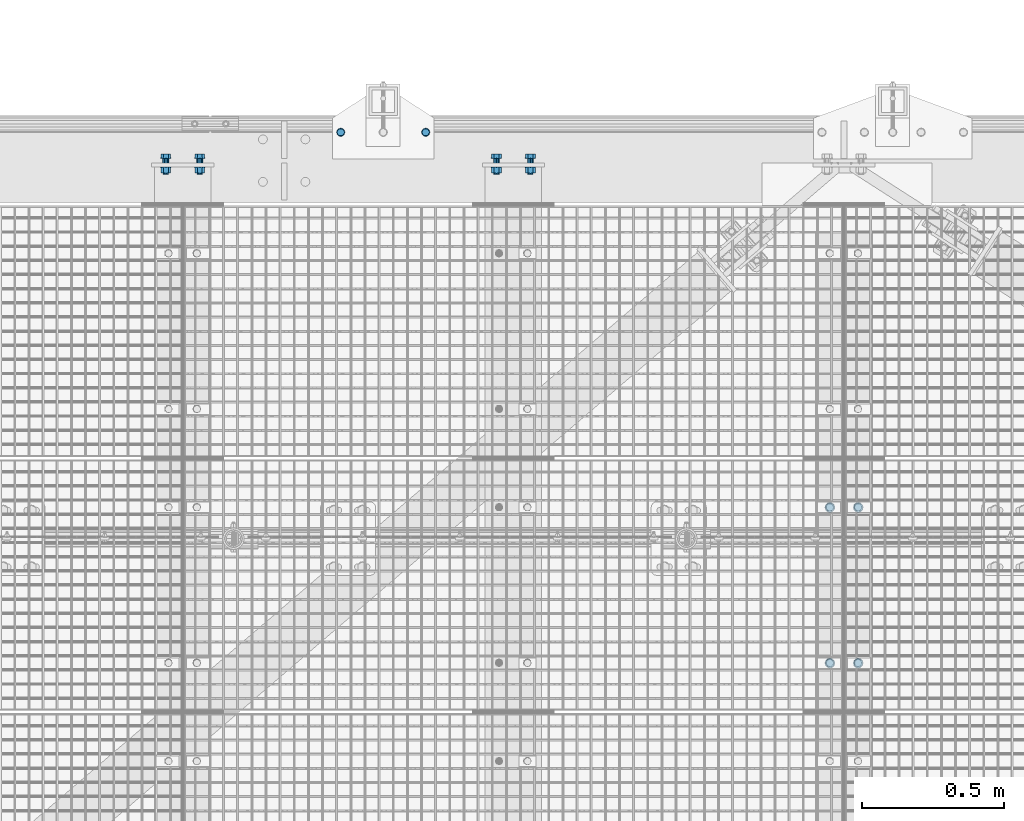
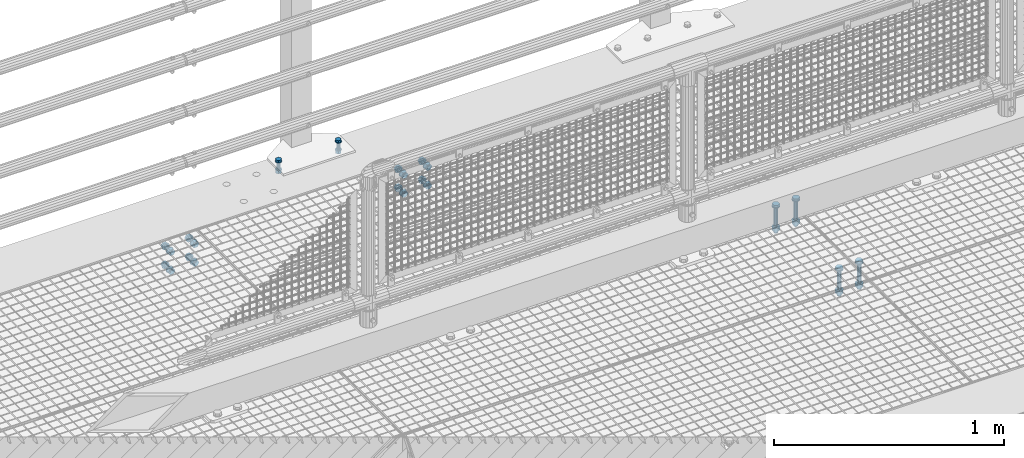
# One storey, part 40 of 1530: 5 mechanical fasteners.
"""IFC2X3 building model written with IfcOpenShell, lengths in millimetres."""

from ifc_helpers import new_model, si_unit, frame, origin_with_axes, place, context, subcontext, project, spatial, faceted_brep, source, transform, mapped, material, type_object, element, save


model = new_model("IFC2X3")

# Units and contexts
model_context = context("Model", 3, precision=1e-05, world=origin_with_axes())
body_context = subcontext(model_context, "Body", "Model", "MODEL_VIEW")
ifc_project = project(units=[si_unit("LENGTHUNIT", "METRE", prefix="MILLI"), si_unit("AREAUNIT", "SQUARE_METRE"), si_unit("VOLUMEUNIT", "CUBIC_METRE"), si_unit("MASSUNIT", "GRAM", prefix="KILO"), si_unit("TIMEUNIT", "SECOND"), si_unit("PLANEANGLEUNIT", "RADIAN"), si_unit("SOLIDANGLEUNIT", "STERADIAN"), si_unit("THERMODYNAMICTEMPERATUREUNIT", "DEGREE_CELSIUS"), si_unit("LUMINOUSINTENSITYUNIT", "LUMEN")], contexts=[model_context])

# Site, building, storey
site_placement = place(None, origin_with_axes())
site = spatial("IfcSite", under=ifc_project, at=site_placement, Name="Brattvåg", CompositionType="ELEMENT")
building_placement = place(site_placement, origin_with_axes())
building = spatial("IfcBuilding", under=site, at=building_placement, Name="Undefined", CompositionType="ELEMENT")
storey_placement = place(building_placement, origin_with_axes())
storey = spatial("IfcBuildingStorey", under=building, at=storey_placement, Name="Undefined", CompositionType="ELEMENT", Elevation=0.0)

# Mechanical fasteners
ifc_material = material(Name="8")
mechanical_fastener_type = type_object("IfcMechanicalFastenerType", Name="Bolt assembly")
shared_shape_1 = source(origin_with_axes(), body_context, "Body", "Brep", [
    faceted_brep([(17.3205080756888, -10.5, 0.0), (8.66025403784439, -10.5, 15.0), (-8.66025403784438, -10.5, 15.0), (-17.3205080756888, -10.5, 2.12115047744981e-15), (-8.66025403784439, -10.5, -15.0), (8.66025403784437, -10.5, -15.0), (8.66025403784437, 2.0, -15.0), (-8.66025403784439, 2.0, -15.0), (-17.3205080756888, 2.0, 2.12115047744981e-15), (-8.66025403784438, 2.0, 15.0), (8.66025403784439, 2.0, 15.0), (17.3205080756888, 2.0, 0.0), (10.0, 2.0, 0.0), (8.66025403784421, 2.0, 5.0000000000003), (4.9999999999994, 2.0, 8.66025403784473), (-1.03633598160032e-12, 2.0, 10.0), (-5.00000000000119, 2.0, 8.6602540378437), (-8.66025403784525, 2.0, 4.99999999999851), (-10.0, 2.0, -2.07267196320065e-12), (-8.66025403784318, 2.0, -5.00000000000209), (-4.99999999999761, 2.0, -8.66025403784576), (3.09790571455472e-12, 2.0, -10.0), (5.00000000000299, 2.0, -8.66025403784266), (8.66025403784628, 2.0, -4.99999999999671), (8.66025403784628, 142.0, -4.99999999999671), (5.00000000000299, 142.0, -8.66025403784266), (3.09790571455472e-12, 142.0, -10.0), (-4.99999999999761, 142.0, -8.66025403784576), (-8.66025403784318, 142.0, -5.00000000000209), (-10.0, 142.0, -2.07267196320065e-12), (-8.66025403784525, 142.0, 4.99999999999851), (-5.00000000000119, 142.0, 8.6602540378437), (-1.03633598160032e-12, 142.0, 10.0), (4.9999999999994, 142.0, 8.66025403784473), (8.66025403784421, 142.0, 5.0000000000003), (10.0, 142.0, 0.0), (18.5, 2.0, 0.0), (16.0214699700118, 2.0, 9.25000000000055), (9.2499999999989, 2.0, 16.0214699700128), (-1.9172215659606e-12, 2.0, 18.5), (-9.25000000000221, 2.0, 16.0214699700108), (-16.0214699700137, 2.0, 9.24999999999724), (-18.5, 2.0, -3.83444313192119e-12), (-16.0214699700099, 2.0, -9.25000000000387), (-9.24999999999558, 2.0, -16.0214699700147), (5.73112557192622e-12, 2.0, -18.5), (9.25000000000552, 2.0, -16.0214699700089), (16.0214699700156, 2.0, -9.24999999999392), (16.0214699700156, 5.0, -9.24999999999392), (9.25000000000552, 5.0, -16.0214699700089), (5.73112557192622e-12, 5.0, -18.5), (-9.24999999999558, 5.0, -16.0214699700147), (-16.0214699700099, 5.0, -9.25000000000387), (-18.5, 5.0, -3.83444313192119e-12), (-16.0214699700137, 5.0, 9.24999999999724), (-9.25000000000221, 5.0, 16.0214699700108), (-1.9172215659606e-12, 5.0, 18.5), (9.2499999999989, 5.0, 16.0214699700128), (16.0214699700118, 5.0, 9.25000000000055), (18.5, 5.0, 0.0), (18.5, 109.998931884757, 0.0), (16.0214699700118, 109.998931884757, 9.25000000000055), (9.2499999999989, 109.998931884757, 16.0214699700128), (-1.9172215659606e-12, 109.998931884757, 18.5), (-9.25000000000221, 109.998931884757, 16.0214699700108), (-16.0214699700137, 109.998931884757, 9.24999999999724), (-18.5, 109.998931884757, -3.83444313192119e-12), (-16.0214699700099, 109.998931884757, -9.25000000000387), (-9.24999999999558, 109.998931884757, -16.0214699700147), (5.73112557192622e-12, 109.998931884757, -18.5), (9.25000000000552, 109.998931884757, -16.0214699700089), (16.0214699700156, 109.998931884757, -9.24999999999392), (16.0214699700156, 112.998931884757, -9.24999999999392), (9.25000000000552, 112.998931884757, -16.0214699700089), (5.73112557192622e-12, 112.998931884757, -18.5), (-9.24999999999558, 112.998931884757, -16.0214699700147), (-16.0214699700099, 112.998931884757, -9.25000000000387), (-18.5, 112.998931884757, -3.83444313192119e-12), (-16.0214699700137, 112.998931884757, 9.24999999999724), (-9.25000000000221, 112.998931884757, 16.0214699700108), (-1.9172215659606e-12, 112.998931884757, 18.5), (9.2499999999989, 112.998931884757, 16.0214699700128), (16.0214699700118, 112.998931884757, 9.25000000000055), (18.5, 112.998931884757, 0.0), (17.3205080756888, 112.998931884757, 0.0), (8.66025403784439, 112.998931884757, 15.0), (-8.66025403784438, 112.998931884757, 15.0), (-17.3205080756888, 112.998931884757, 2.12115047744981e-15), (-8.66025403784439, 112.998931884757, -15.0), (8.66025403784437, 112.998931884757, -15.0), (8.66025403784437, 130.998931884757, -15.0), (-8.66025403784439, 130.998931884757, -15.0), (-17.3205080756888, 130.998931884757, 2.12115047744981e-15), (-8.66025403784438, 130.998931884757, 15.0), (8.66025403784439, 130.998931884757, 15.0), (17.3205080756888, 130.998931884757, 0.0)], [[[0, 1, 2, 3, 4, 5]], [[6, 7, 8, 9, 10, 11]], [[0, 11, 10, 1]], [[1, 10, 9, 2]], [[2, 9, 8, 3]], [[3, 8, 7, 4]], [[4, 7, 6, 5]], [[5, 6, 11, 0]], [[12, 13, 14, 15, 16, 17, 18, 19, 20, 21, 22, 23]], [[24, 25, 26, 27, 28, 29, 30, 31, 32, 33, 34, 35]], [[12, 35, 34, 13]], [[13, 34, 33, 14]], [[14, 33, 32, 15]], [[15, 32, 31, 16]], [[16, 31, 30, 17]], [[17, 30, 29, 18]], [[18, 29, 28, 19]], [[19, 28, 27, 20]], [[20, 27, 26, 21]], [[21, 26, 25, 22]], [[22, 25, 24, 23]], [[23, 24, 35, 12]], [[36, 37, 38, 39, 40, 41, 42, 43, 44, 45, 46, 47]], [[48, 49, 50, 51, 52, 53, 54, 55, 56, 57, 58, 59]], [[36, 59, 58, 37]], [[37, 58, 57, 38]], [[38, 57, 56, 39]], [[39, 56, 55, 40]], [[40, 55, 54, 41]], [[41, 54, 53, 42]], [[42, 53, 52, 43]], [[43, 52, 51, 44]], [[44, 51, 50, 45]], [[45, 50, 49, 46]], [[46, 49, 48, 47]], [[47, 48, 59, 36]], [[60, 61, 62, 63, 64, 65, 66, 67, 68, 69, 70, 71]], [[72, 73, 74, 75, 76, 77, 78, 79, 80, 81, 82, 83]], [[60, 83, 82, 61]], [[61, 82, 81, 62]], [[62, 81, 80, 63]], [[63, 80, 79, 64]], [[64, 79, 78, 65]], [[65, 78, 77, 66]], [[66, 77, 76, 67]], [[67, 76, 75, 68]], [[68, 75, 74, 69]], [[69, 74, 73, 70]], [[70, 73, 72, 71]], [[71, 72, 83, 60]], [[84, 85, 86, 87, 88, 89]], [[90, 91, 92, 93, 94, 95]], [[84, 95, 94, 85]], [[85, 94, 93, 86]], [[86, 93, 92, 87]], [[87, 92, 91, 88]], [[88, 91, 90, 89]], [[89, 90, 95, 84]]]),
])
for number, where, z_axis, x_axis, name in (
    (1, (7628.00477935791, 7224.91931152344, -25.0), (-1.0, 1.99999855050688e-09, 0.0), (0.0, 1.0, 0.0), "Bolt assembly"),
    (2, (7528.01487731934, 7224.9204864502, -25.0), (-1.0, 1.99999855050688e-09, 0.0), (0.0, 1.0, 0.0), "Bolt assembly"),
):
    element("IfcMechanicalFastener", number, at=place(storey_placement, frame(where, z_axis=z_axis, x_axis=x_axis)), inside=storey, type_object=mechanical_fastener_type, material=ifc_material, Name=name, NominalDiameter=20.0, NominalLength=140.0, context=body_context, shape_type="MappedRepresentation", body=[
        mapped(shared_shape_1, transform((0.0, 0.0, 0.0))),
        mapped(shared_shape_1, transform((549.999999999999, 0.0, 0.0))),
    ])
shared_shape_2 = source(origin_with_axes(), body_context, "Body", "Brep", [
    faceted_brep([(13.856406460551, -13.0, 0.0), (6.92820323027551, -13.0, 12.0), (-6.92820323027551, -13.0, 12.0), (-13.856406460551, -13.0, 1.69692038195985e-15), (-6.92820323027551, -13.0, -12.0), (6.9282032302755, -13.0, -12.0), (6.9282032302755, -3.0, -12.0), (-6.92820323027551, -3.0, -12.0), (-13.856406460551, -3.0, 1.69692038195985e-15), (-6.92820323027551, -3.0, 12.0), (6.92820323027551, -3.0, 12.0), (13.856406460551, -3.0, 0.0), (8.0, -3.0, 0.0), (6.92820323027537, -3.0, 4.00000000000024), (3.99999999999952, -3.0, 6.92820323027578), (-8.29068785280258e-13, -3.0, 8.0), (-4.00000000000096, -3.0, 6.92820323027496), (-6.9282032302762, -3.0, 3.99999999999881), (-8.0, -3.0, -1.65813757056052e-12), (-6.92820323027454, -3.0, -4.00000000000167), (-3.99999999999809, -3.0, -6.92820323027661), (2.47832457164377e-12, -3.0, -8.0), (4.00000000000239, -3.0, -6.92820323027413), (6.92820323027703, -3.0, -3.99999999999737), (6.92820323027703, 62.0000000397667, -3.99999999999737), (4.00000000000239, 62.0000000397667, -6.92820323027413), (2.47832457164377e-12, 62.0000000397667, -8.0), (-3.99999999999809, 62.0000000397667, -6.92820323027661), (-6.92820323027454, 62.0000000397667, -4.00000000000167), (-8.0, 62.0000000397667, -1.65813757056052e-12), (-6.9282032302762, 62.0000000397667, 3.99999999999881), (-4.00000000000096, 62.0000000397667, 6.92820323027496), (-8.29068785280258e-13, 62.0000000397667, 8.0), (3.99999999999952, 62.0000000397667, 6.92820323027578), (6.92820323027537, 62.0000000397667, 4.00000000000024), (8.0, 62.0000000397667, 0.0), (15.0, -3.0, 0.0), (12.9903810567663, -3.0, 7.50000000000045), (7.4999999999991, -3.0, 12.9903810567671), (-1.55450397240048e-12, -3.0, 15.0), (-7.50000000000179, -3.0, 12.9903810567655), (-12.9903810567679, -3.0, 7.49999999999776), (-15.0, -3.0, -3.10900794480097e-12), (-12.9903810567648, -3.0, -7.50000000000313), (-7.49999999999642, -3.0, -12.9903810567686), (4.64685857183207e-12, -3.0, -15.0), (7.50000000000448, -3.0, -12.990381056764), (12.9903810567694, -3.0, -7.49999999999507), (12.9903810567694, 0.0, -7.49999999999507), (7.50000000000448, 0.0, -12.990381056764), (0.0, 0.0, -15.0), (-7.49999999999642, 0.0, -12.9903810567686), (-12.9903810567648, 0.0, -7.50000000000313), (-15.0, 0.0, -3.10900794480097e-12), (-12.9903810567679, 0.0, 7.49999999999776), (-7.50000000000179, 0.0, 12.9903810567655), (0.0, 0.0, 15.0), (7.4999999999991, 0.0, 12.9903810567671), (12.9903810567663, 0.0, 7.50000000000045), (15.0, 0.0, 0.0), (15.0, 39.9997390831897, 0.0), (12.9903810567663, 39.9997390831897, 7.50000000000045), (7.4999999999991, 39.9997390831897, 12.9903810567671), (-1.55450397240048e-12, 39.9997390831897, 15.0), (-7.50000000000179, 39.9997390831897, 12.9903810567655), (-12.9903810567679, 39.9997390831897, 7.49999999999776), (-15.0, 39.9997390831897, -3.10900794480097e-12), (-12.9903810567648, 39.9997390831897, -7.50000000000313), (-7.49999999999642, 39.9997390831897, -12.9903810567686), (4.64685857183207e-12, 39.9997390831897, -15.0), (7.50000000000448, 39.9997390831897, -12.990381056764), (12.9903810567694, 39.9997390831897, -7.49999999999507), (12.9903810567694, 42.9997390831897, -7.49999999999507), (7.50000000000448, 42.9997390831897, -12.990381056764), (4.64685857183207e-12, 42.9997390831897, -15.0), (-7.49999999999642, 42.9997390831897, -12.9903810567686), (-12.9903810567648, 42.9997390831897, -7.50000000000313), (-15.0, 42.9997390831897, -3.10900794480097e-12), (-12.9903810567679, 42.9997390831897, 7.49999999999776), (-7.50000000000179, 42.9997390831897, 12.9903810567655), (-1.55450397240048e-12, 42.9997390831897, 15.0), (7.4999999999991, 42.9997390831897, 12.9903810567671), (12.9903810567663, 42.9997390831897, 7.50000000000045), (15.0, 42.9997390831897, 0.0), (13.856406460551, 42.9997390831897, 0.0), (6.92820323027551, 42.9997390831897, 12.0), (-6.92820323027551, 42.9997390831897, 12.0), (-13.856406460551, 42.9997390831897, 1.69692038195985e-15), (-6.92820323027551, 42.9997390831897, -12.0), (6.9282032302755, 42.9997390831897, -12.0), (6.9282032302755, 57.7997392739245, -12.0), (-6.92820323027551, 57.7997392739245, -12.0), (-13.856406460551, 57.7997392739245, 1.69692038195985e-15), (-6.92820323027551, 57.7997392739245, 12.0), (6.92820323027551, 57.7997392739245, 12.0), (13.856406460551, 57.7997392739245, 0.0)], [[[0, 1, 2, 3, 4, 5]], [[6, 7, 8, 9, 10, 11]], [[0, 11, 10, 1]], [[1, 10, 9, 2]], [[2, 9, 8, 3]], [[3, 8, 7, 4]], [[4, 7, 6, 5]], [[5, 6, 11, 0]], [[12, 13, 14, 15, 16, 17, 18, 19, 20, 21, 22, 23]], [[24, 25, 26, 27, 28, 29, 30, 31, 32, 33, 34, 35]], [[12, 35, 34, 13]], [[13, 34, 33, 14]], [[14, 33, 32, 15]], [[15, 32, 31, 16]], [[16, 31, 30, 17]], [[17, 30, 29, 18]], [[18, 29, 28, 19]], [[19, 28, 27, 20]], [[20, 27, 26, 21]], [[21, 26, 25, 22]], [[22, 25, 24, 23]], [[23, 24, 35, 12]], [[36, 37, 38, 39, 40, 41, 42, 43, 44, 45, 46, 47]], [[48, 49, 50, 51, 52, 53, 54, 55, 56, 57, 58, 59]], [[36, 59, 58, 37]], [[37, 58, 57, 38]], [[38, 57, 56, 39]], [[39, 56, 55, 40]], [[40, 55, 54, 41]], [[41, 54, 53, 42]], [[42, 53, 52, 43]], [[43, 52, 51, 44]], [[44, 51, 50, 45]], [[45, 50, 49, 46]], [[46, 49, 48, 47]], [[47, 48, 59, 36]], [[60, 61, 62, 63, 64, 65, 66, 67, 68, 69, 70, 71]], [[72, 73, 74, 75, 76, 77, 78, 79, 80, 81, 82, 83]], [[60, 83, 82, 61]], [[61, 82, 81, 62]], [[62, 81, 80, 63]], [[63, 80, 79, 64]], [[64, 79, 78, 65]], [[65, 78, 77, 66]], [[66, 77, 76, 67]], [[67, 76, 75, 68]], [[68, 75, 74, 69]], [[69, 74, 73, 70]], [[70, 73, 72, 71]], [[71, 72, 83, 60]], [[84, 85, 86, 87, 88, 89]], [[90, 91, 92, 93, 94, 95]], [[84, 95, 94, 85]], [[85, 94, 93, 86]], [[86, 93, 92, 87]], [[87, 92, 91, 88]], [[88, 91, 90, 89]], [[89, 90, 95, 84]]]),
    faceted_brep([(9.0, 0.1, 0.0), (7.79422863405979, 0.1, 4.50000000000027), (4.49999999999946, 0.1, 7.79422863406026), (-9.3270238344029e-13, 0.1, 9.0), (-4.50000000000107, 0.1, 7.79422863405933), (-7.79422863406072, 0.1, 4.49999999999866), (-9.0, 0.1, -1.86540476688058e-12), (-7.79422863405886, 0.1, -4.50000000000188), (-4.49999999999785, 0.1, -7.79422863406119), (2.78811514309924e-12, 0.1, -9.0), (4.50000000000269, 0.1, -7.7942286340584), (7.79422863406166, 0.1, -4.49999999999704), (7.79422863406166, 10.1, -4.49999999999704), (4.50000000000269, 10.1, -7.7942286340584), (2.78811514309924e-12, 10.1, -9.0), (-4.49999999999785, 10.1, -7.79422863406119), (-7.79422863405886, 10.1, -4.50000000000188), (-9.0, 10.1, -1.86540476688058e-12), (-7.79422863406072, 10.1, 4.49999999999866), (-4.50000000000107, 10.1, 7.79422863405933), (-9.3270238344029e-13, 10.1, 9.0), (4.49999999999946, 10.1, 7.79422863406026), (7.79422863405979, 10.1, 4.50000000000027), (9.0, 10.1, 0.0), (9.0, 9.8997390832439, 0.0), (7.79422863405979, 9.8997390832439, 4.50000000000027), (4.49999999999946, 9.8997390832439, 7.79422863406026), (-9.3270238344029e-13, 9.8997390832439, 9.0), (-4.50000000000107, 9.8997390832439, 7.79422863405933), (-7.79422863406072, 9.8997390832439, 4.49999999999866), (-9.0, 9.8997390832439, -1.86540476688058e-12), (-7.79422863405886, 9.8997390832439, -4.50000000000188), (-4.49999999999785, 9.8997390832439, -7.79422863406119), (2.78811514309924e-12, 9.8997390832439, -9.0), (4.50000000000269, 9.8997390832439, -7.7942286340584), (7.79422863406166, 9.8997390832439, -4.49999999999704), (7.79422863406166, 39.9997390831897, -4.49999999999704), (4.50000000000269, 39.9997390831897, -7.7942286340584), (2.78811514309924e-12, 39.9997390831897, -9.0), (-4.49999999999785, 39.9997390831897, -7.79422863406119), (-7.79422863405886, 39.9997390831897, -4.50000000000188), (-9.0, 39.9997390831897, -1.86540476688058e-12), (-7.79422863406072, 39.9997390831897, 4.49999999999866), (-4.50000000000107, 39.9997390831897, 7.79422863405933), (-9.3270238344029e-13, 39.9997390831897, 9.0), (4.49999999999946, 39.9997390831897, 7.79422863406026), (7.79422863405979, 39.9997390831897, 4.50000000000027), (9.0, 39.9997390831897, 0.0)], [[[0, 1, 2, 3, 4, 5, 6, 7, 8, 9, 10, 11]], [[12, 13, 14, 15, 16, 17, 18, 19, 20, 21, 22, 23]], [[0, 23, 22, 1]], [[1, 22, 21, 2]], [[2, 21, 20, 3]], [[3, 20, 19, 4]], [[4, 19, 18, 5]], [[5, 18, 17, 6]], [[6, 17, 16, 7]], [[7, 16, 15, 8]], [[8, 15, 14, 9]], [[9, 14, 13, 10]], [[10, 13, 12, 11]], [[11, 12, 23, 0]], [[24, 25, 26, 27, 28, 29, 30, 31, 32, 33, 34, 35]], [[36, 37, 38, 39, 40, 41, 42, 43, 44, 45, 46, 47]], [[24, 47, 46, 25]], [[25, 46, 45, 26]], [[26, 45, 44, 27]], [[27, 44, 43, 28]], [[28, 43, 42, 29]], [[29, 42, 41, 30]], [[30, 41, 40, 31]], [[31, 40, 39, 32]], [[32, 39, 38, 33]], [[33, 38, 37, 34]], [[34, 37, 36, 35]], [[35, 36, 47, 24]]]),
])
mechanical_fastener_placement = place(storey_placement, frame((5800.00080864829, 9099.99960715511, 9.9997390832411), z_axis=(0.0, 1.0, 0.0), x_axis=(1.0, 0.0, 0.0)))
element("IfcMechanicalFastener", 3, at=mechanical_fastener_placement, inside=storey, type_object=mechanical_fastener_type, material=ifc_material, Name="Bolt assembly", NominalDiameter=16.0, NominalLength=65.0, context=body_context, shape_type="MappedRepresentation", body=[
    mapped(shared_shape_2, transform((0.0, 0.0, 0.0))),
    mapped(shared_shape_2, transform((300.0, 0.0, 0.0))),
])
shared_shape_3 = source(origin_with_axes(), body_context, "Body", "Brep", [
    faceted_brep([(17.3205080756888, -31.4985046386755, 0.0), (8.66025403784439, -31.4985046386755, 15.0), (-8.66025403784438, -31.4985046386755, 15.0), (-17.3205080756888, -31.4985046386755, 2.12115047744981e-15), (-8.66025403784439, -31.4985046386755, -15.0), (8.66025403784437, -31.4985046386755, -15.0), (8.66025403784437, -18.9985046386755, -15.0), (-8.66025403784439, -18.9985046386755, -15.0), (-17.3205080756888, -18.9985046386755, 2.12115047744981e-15), (-8.66025403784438, -18.9985046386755, 15.0), (8.66025403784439, -18.9985046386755, 15.0), (17.3205080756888, -18.9985046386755, 0.0), (10.0, -18.9985046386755, 0.0), (8.66025403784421, -18.9985046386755, 5.0000000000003), (4.9999999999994, -18.9985046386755, 8.66025403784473), (-1.03633598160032e-12, -18.9985046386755, 10.0), (-5.00000000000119, -18.9985046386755, 8.6602540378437), (-8.66025403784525, -18.9985046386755, 4.99999999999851), (-10.0, -18.9985046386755, -2.07267196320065e-12), (-8.66025403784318, -18.9985046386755, -5.00000000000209), (-4.99999999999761, -18.9985046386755, -8.66025403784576), (3.09790571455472e-12, -18.9985046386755, -10.0), (5.00000000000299, -18.9985046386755, -8.66025403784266), (8.66025403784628, -18.9985046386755, -4.99999999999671), (8.66025403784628, 41.0014953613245, -4.99999999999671), (5.00000000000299, 41.0014953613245, -8.66025403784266), (3.09790571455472e-12, 41.0014953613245, -10.0), (-4.99999999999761, 41.0014953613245, -8.66025403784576), (-8.66025403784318, 41.0014953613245, -5.00000000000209), (-10.0, 41.0014953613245, -2.07267196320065e-12), (-8.66025403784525, 41.0014953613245, 4.99999999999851), (-5.00000000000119, 41.0014953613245, 8.6602540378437), (-1.03633598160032e-12, 41.0014953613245, 10.0), (4.9999999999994, 41.0014953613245, 8.66025403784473), (8.66025403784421, 41.0014953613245, 5.0000000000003), (10.0, 41.0014953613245, 0.0), (18.5, -18.9985046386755, 0.0), (16.0214699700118, -18.9985046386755, 9.25000000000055), (9.2499999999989, -18.9985046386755, 16.0214699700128), (-1.9172215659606e-12, -18.9985046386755, 18.5), (-9.25000000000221, -18.9985046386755, 16.0214699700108), (-16.0214699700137, -18.9985046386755, 9.24999999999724), (-18.5, -18.9985046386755, -3.83444313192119e-12), (-16.0214699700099, -18.9985046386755, -9.25000000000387), (-9.24999999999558, -18.9985046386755, -16.0214699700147), (5.73112557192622e-12, -18.9985046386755, -18.5), (9.25000000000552, -18.9985046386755, -16.0214699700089), (16.0214699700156, -18.9985046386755, -9.24999999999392), (16.0214699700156, -15.9985046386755, -9.24999999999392), (9.25000000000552, -15.9985046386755, -16.0214699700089), (5.73112557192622e-12, -15.9985046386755, -18.5), (-9.24999999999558, -15.9985046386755, -16.0214699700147), (-16.0214699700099, -15.9985046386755, -9.25000000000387), (-18.5, -15.9985046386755, -3.83444313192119e-12), (-16.0214699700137, -15.9985046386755, 9.24999999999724), (-9.25000000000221, -15.9985046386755, 16.0214699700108), (-1.9172215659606e-12, -15.9985046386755, 18.5), (9.2499999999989, -15.9985046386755, 16.0214699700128), (16.0214699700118, -15.9985046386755, 9.25000000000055), (18.5, -15.9985046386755, 0.0), (18.5, 15.0000000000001, 0.0), (16.0214699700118, 15.0000000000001, 9.25000000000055), (9.2499999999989, 15.0000000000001, 16.0214699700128), (-1.9172215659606e-12, 15.0000000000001, 18.5), (-9.25000000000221, 15.0000000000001, 16.0214699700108), (-16.0214699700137, 15.0000000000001, 9.24999999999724), (-18.5, 15.0000000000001, -3.83444313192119e-12), (-16.0214699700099, 15.0000000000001, -9.25000000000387), (-9.24999999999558, 15.0000000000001, -16.0214699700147), (5.73112557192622e-12, 15.0000000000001, -18.5), (9.25000000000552, 15.0000000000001, -16.0214699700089), (16.0214699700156, 15.0000000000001, -9.24999999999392), (16.0214699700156, 18.0000000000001, -9.24999999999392), (9.25000000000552, 18.0000000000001, -16.0214699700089), (5.73112557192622e-12, 18.0000000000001, -18.5), (-9.24999999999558, 18.0000000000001, -16.0214699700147), (-16.0214699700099, 18.0000000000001, -9.25000000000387), (-18.5, 18.0000000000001, -3.83444313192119e-12), (-16.0214699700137, 18.0000000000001, 9.24999999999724), (-9.25000000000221, 18.0000000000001, 16.0214699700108), (-1.9172215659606e-12, 18.0000000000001, 18.5), (9.2499999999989, 18.0000000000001, 16.0214699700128), (16.0214699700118, 18.0000000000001, 9.25000000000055), (18.5, 18.0000000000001, 0.0), (17.3205080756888, 18.0000000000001, 0.0), (8.66025403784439, 18.0000000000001, 15.0), (-8.66025403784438, 18.0000000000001, 15.0), (-17.3205080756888, 18.0000000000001, 2.12115047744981e-15), (-8.66025403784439, 18.0000000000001, -15.0), (8.66025403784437, 18.0000000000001, -15.0), (8.66025403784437, 36.0000000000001, -15.0), (-8.66025403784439, 36.0000000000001, -15.0), (-17.3205080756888, 36.0000000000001, 2.12115047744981e-15), (-8.66025403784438, 36.0000000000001, 15.0), (8.66025403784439, 36.0000000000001, 15.0), (17.3205080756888, 36.0000000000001, 0.0)], [[[0, 1, 2, 3, 4, 5]], [[6, 7, 8, 9, 10, 11]], [[0, 11, 10, 1]], [[1, 10, 9, 2]], [[2, 9, 8, 3]], [[3, 8, 7, 4]], [[4, 7, 6, 5]], [[5, 6, 11, 0]], [[12, 13, 14, 15, 16, 17, 18, 19, 20, 21, 22, 23]], [[24, 25, 26, 27, 28, 29, 30, 31, 32, 33, 34, 35]], [[12, 35, 34, 13]], [[13, 34, 33, 14]], [[14, 33, 32, 15]], [[15, 32, 31, 16]], [[16, 31, 30, 17]], [[17, 30, 29, 18]], [[18, 29, 28, 19]], [[19, 28, 27, 20]], [[20, 27, 26, 21]], [[21, 26, 25, 22]], [[22, 25, 24, 23]], [[23, 24, 35, 12]], [[36, 37, 38, 39, 40, 41, 42, 43, 44, 45, 46, 47]], [[48, 49, 50, 51, 52, 53, 54, 55, 56, 57, 58, 59]], [[36, 59, 58, 37]], [[37, 58, 57, 38]], [[38, 57, 56, 39]], [[39, 56, 55, 40]], [[40, 55, 54, 41]], [[41, 54, 53, 42]], [[42, 53, 52, 43]], [[43, 52, 51, 44]], [[44, 51, 50, 45]], [[45, 50, 49, 46]], [[46, 49, 48, 47]], [[47, 48, 59, 36]], [[60, 61, 62, 63, 64, 65, 66, 67, 68, 69, 70, 71]], [[72, 73, 74, 75, 76, 77, 78, 79, 80, 81, 82, 83]], [[60, 83, 82, 61]], [[61, 82, 81, 62]], [[62, 81, 80, 63]], [[63, 80, 79, 64]], [[64, 79, 78, 65]], [[65, 78, 77, 66]], [[66, 77, 76, 67]], [[67, 76, 75, 68]], [[68, 75, 74, 69]], [[69, 74, 73, 70]], [[70, 73, 72, 71]], [[71, 72, 83, 60]], [[84, 85, 86, 87, 88, 89]], [[90, 91, 92, 93, 94, 95]], [[84, 95, 94, 85]], [[85, 94, 93, 86]], [[86, 93, 92, 87]], [[87, 92, 91, 88]], [[88, 91, 90, 89]], [[89, 90, 95, 84]]]),
    faceted_brep([(11.0, -15.8985046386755, 0.0), (9.52627944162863, -15.8985046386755, 5.50000000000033), (5.49999999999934, -15.8985046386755, 9.5262794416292), (-1.13996957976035e-12, -15.8985046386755, 11.0), (-5.50000000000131, -15.8985046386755, 9.52627944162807), (-9.52627944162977, -15.8985046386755, 5.49999999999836), (-11.0, -15.8985046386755, -2.27993915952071e-12), (-9.5262794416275, -15.8985046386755, -5.5000000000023), (-5.49999999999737, -15.8985046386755, -9.52627944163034), (3.40769628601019e-12, -15.8985046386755, -11.0), (5.50000000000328, -15.8985046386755, -9.52627944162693), (9.52627944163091, -15.8985046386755, -5.49999999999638), (9.52627944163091, 0.101495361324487, -5.49999999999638), (5.50000000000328, 0.101495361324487, -9.52627944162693), (3.40769628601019e-12, 0.101495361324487, -11.0), (-5.49999999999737, 0.101495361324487, -9.52627944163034), (-9.5262794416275, 0.101495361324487, -5.5000000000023), (-11.0, 0.101495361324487, -2.27993915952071e-12), (-9.52627944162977, 0.101495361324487, 5.49999999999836), (-5.50000000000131, 0.101495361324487, 9.52627944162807), (-1.13996957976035e-12, 0.101495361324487, 11.0), (5.49999999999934, 0.101495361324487, 9.5262794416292), (9.52627944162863, 0.101495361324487, 5.50000000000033), (11.0, 0.101495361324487, 0.0), (11.0, -0.1, 0.0), (9.52627944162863, -0.1, 5.50000000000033), (5.49999999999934, -0.1, 9.5262794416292), (-1.13996957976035e-12, -0.1, 11.0), (-5.50000000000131, -0.1, 9.52627944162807), (-9.52627944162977, -0.1, 5.49999999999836), (-11.0, -0.1, -2.27993915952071e-12), (-9.5262794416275, -0.1, -5.5000000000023), (-5.49999999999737, -0.1, -9.52627944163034), (3.40769628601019e-12, -0.1, -11.0), (5.50000000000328, -0.1, -9.52627944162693), (9.52627944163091, -0.1, -5.49999999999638), (9.52627944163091, 15.0000000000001, -5.49999999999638), (5.50000000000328, 15.0000000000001, -9.52627944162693), (3.40769628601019e-12, 15.0000000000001, -11.0), (-5.49999999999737, 15.0000000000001, -9.52627944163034), (-9.5262794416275, 15.0000000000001, -5.5000000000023), (-11.0, 15.0000000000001, -2.27993915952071e-12), (-9.52627944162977, 15.0000000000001, 5.49999999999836), (-5.50000000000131, 15.0000000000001, 9.52627944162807), (-1.13996957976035e-12, 15.0000000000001, 11.0), (5.49999999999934, 15.0000000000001, 9.5262794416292), (9.52627944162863, 15.0000000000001, 5.50000000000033), (11.0, 15.0000000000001, 0.0)], [[[0, 1, 2, 3, 4, 5, 6, 7, 8, 9, 10, 11]], [[12, 13, 14, 15, 16, 17, 18, 19, 20, 21, 22, 23]], [[0, 23, 22, 1]], [[1, 22, 21, 2]], [[2, 21, 20, 3]], [[3, 20, 19, 4]], [[4, 19, 18, 5]], [[5, 18, 17, 6]], [[6, 17, 16, 7]], [[7, 16, 15, 8]], [[8, 15, 14, 9]], [[9, 14, 13, 10]], [[10, 13, 12, 11]], [[11, 12, 23, 0]], [[24, 25, 26, 27, 28, 29, 30, 31, 32, 33, 34, 35]], [[36, 37, 38, 39, 40, 41, 42, 43, 44, 45, 46, 47]], [[24, 47, 46, 25]], [[25, 46, 45, 26]], [[26, 45, 44, 27]], [[27, 44, 43, 28]], [[28, 43, 42, 29]], [[29, 42, 41, 30]], [[30, 41, 40, 31]], [[31, 40, 39, 32]], [[32, 39, 38, 33]], [[33, 38, 37, 34]], [[34, 37, 36, 35]], [[35, 36, 47, 24]]]),
])
for number, where, z_axis, x_axis, name in (
    (4, (5302.00196838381, 8992.00149536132, -219.998836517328), (0.0, 0.0, 1.0), (-1.0, 1.99999855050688e-09, 0.0), "Bolt assembly"),
    (5, (6470.00196838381, 8992.00149536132, -219.998836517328), (0.0, 0.0, 1.0), (-1.0, 1.99999855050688e-09, 0.0), "Bolt assembly"),
):
    element("IfcMechanicalFastener", number, at=place(storey_placement, frame(where, z_axis=z_axis, x_axis=x_axis)), inside=storey, type_object=mechanical_fastener_type, material=ifc_material, Name=name, NominalDiameter=20.0, NominalLength=60.0, context=body_context, shape_type="MappedRepresentation", body=[
        mapped(shared_shape_3, transform((0.0, 0.0, -50.0))),
        mapped(shared_shape_3, transform((120.0, 0.0, -50.0))),
        mapped(shared_shape_3, transform((0.0, 0.0, 50.0))),
        mapped(shared_shape_3, transform((120.0, 0.0, 50.0))),
    ])

save(model, "model.ifc")
